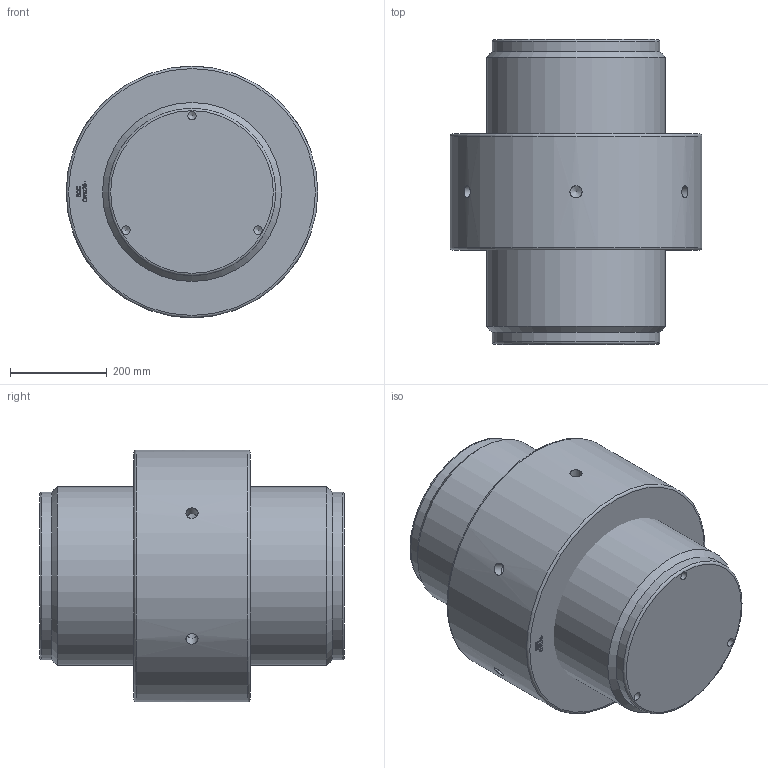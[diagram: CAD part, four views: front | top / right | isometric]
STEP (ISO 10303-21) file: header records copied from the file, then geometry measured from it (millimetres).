
FILE_DESCRIPTION(/* description */ (''),/* implementation_level */ '2;1');
FILE_NAME(/* name */ 'F:\Clienti LS\Redaelli\CYT\CYT\ARRNGEMENT\CYT120 61 061 0.stp',/* time_stamp */ '2021-05-09T08:56:18+02:00',/* author */ ('ranca'),/* organization */ (''),/* preprocessor_version */ 'ST-DEVELOPER v16.13',/* originating_system */ 'Autodesk Inventor 2018',/* authorisation */ '');
FILE_SCHEMA (('AUTOMOTIVE_DESIGN { 1 0 10303 214 3 1 1 }'));
Length unit declared in the file: millimetre
Products named in the file (3): CYT012-61-061-0; CYT012-61-061-0_1; CYT012-61-061-0_DADO
Assembly tree (2 placements, depth 2):
  CYT012-61-061-0
    CYT012-61-061-0_1
    CYT012-61-061-0_DADO
Bounding box: 520 x 630 x 520 mm (x, y, z)
Volume: 92811930.4 mm3; surface area: 1819789.1 mm2
Topology: 2 solids, 2 shells, 334 faces, 914 edges, 608 vertices
Faces by surface type: bspline 172, plane 133, cylinder 14, cone 11, torus 4
Full cylindrical faces by diameter (mm): 17.294 x3, 25 x6, 346 x2, 363.505 x1, 370 x1, 520 x1
Entity records: 11408 total; most frequent: CARTESIAN_POINT 4246, ORIENTED_EDGE 1738, DIRECTION 873, EDGE_CURVE 869, VERTEX_POINT 592, LINE 487, VECTOR 487, EDGE_LOOP 389
